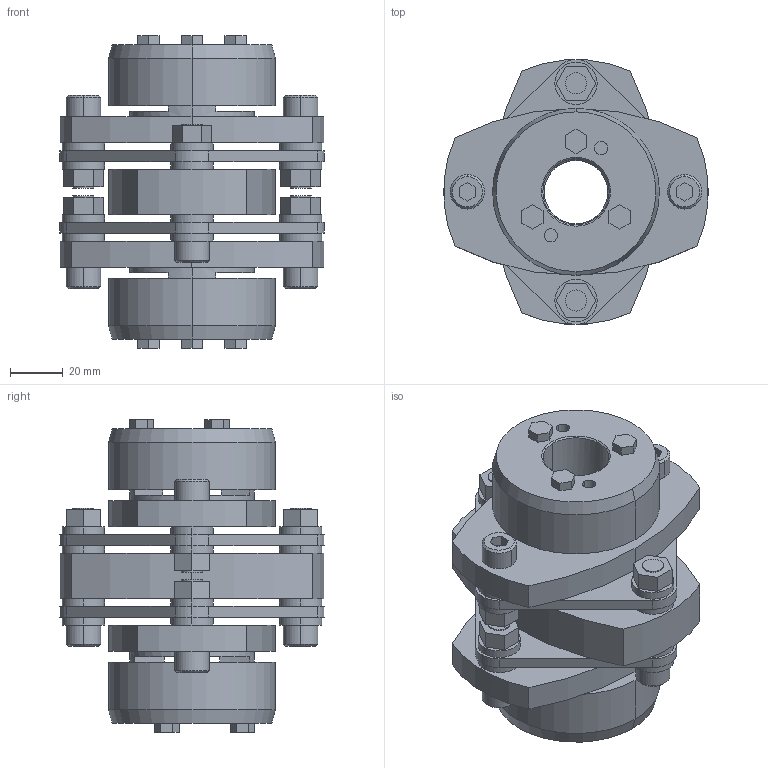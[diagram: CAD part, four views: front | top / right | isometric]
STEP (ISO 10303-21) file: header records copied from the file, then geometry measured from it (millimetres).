
FILE_DESCRIPTION((''),'2;1');
FILE_NAME('LCD-100T7-24×25.stp','2015-11-02T07:20:23',(''),(''),'AutoCAD STEP 2000i','AutoCAD 2000i',', , ');
FILE_SCHEMA(('CONFIG_CONTROL_DESIGN'));
Length unit declared in the file: millimetre
Products named in the file (7): LCD-100T7-25×25; 忣兜1; LC100T7-T025-1; LC100T7-T025; LC100T7-T022-1; LC100T7-T022; LCD100-ITA
Assembly tree (6 placements, depth 2):
  LCD-100T7-25×25
    忣兜1
    LC100T7-T025-1
    LC100T7-T025
    LC100T7-T022-1
    LC100T7-T022
    LCD100-ITA
Bounding box: 100 x 99.93 x 118 mm (x, y, z)
Volume: 349183.2 mm3; surface area: 89093.7 mm2
Topology: 1 solids, 1 shells, 320 faces, 780 edges, 512 vertices
Faces by surface type: plane 176, cylinder 120, cone 24
Entity records: 9663 total; most frequent: DIRECTION 1714, CARTESIAN_POINT 1619, ORIENTED_EDGE 1560, EDGE_CURVE 780, AXIS2_PLACEMENT_3D 607, VERTEX_POINT 512, VECTOR 500, LINE 500
